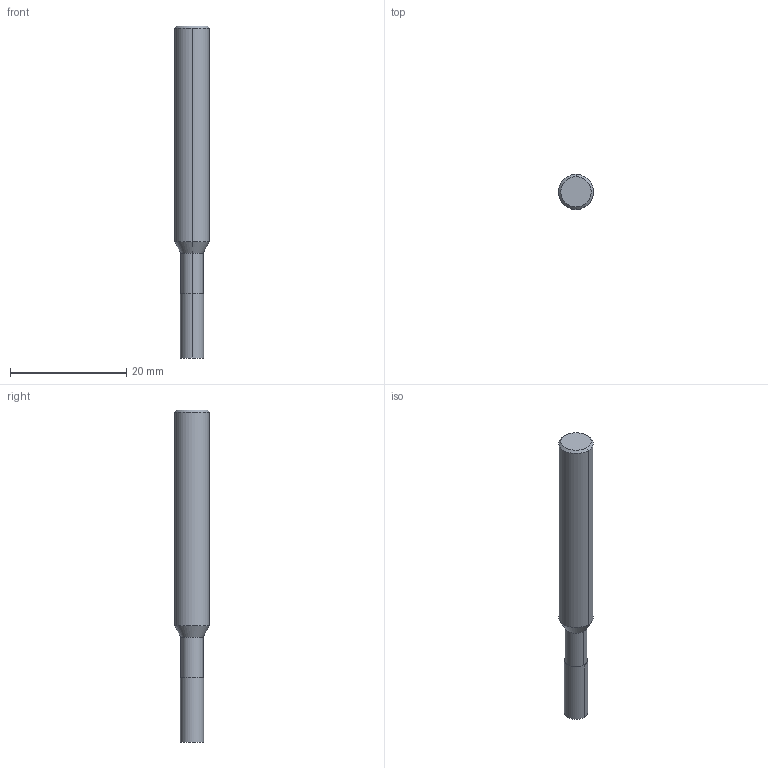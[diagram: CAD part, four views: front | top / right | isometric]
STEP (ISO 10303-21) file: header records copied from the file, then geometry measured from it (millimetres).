
FILE_DESCRIPTION((''),'2;1');
FILE_NAME('DIN4003_82_HEURO','2016-06-28T',('moesset'),(''),'PRO/ENGINEER BY PARAMETRIC TECHNOLOGY CORPORATION, 2015280','PRO/ENGINEER BY PARAMETRIC TECHNOLOGY CORPORATION, 2015280','');
FILE_SCHEMA(('AUTOMOTIVE_DESIGN { 1 0 10303 214 1 1 1 1 }'));
Length unit declared in the file: millimetre
Products named in the file (1): DIN4003_82_HEURO
Bounding box: 6 x 6 x 57 mm (x, y, z)
Volume: 1300.7 mm3; surface area: 991.8 mm2
Topology: 1 solids, 1 shells, 13 faces, 26 edges, 17 vertices
Faces by surface type: bspline 13
Entity records: 750 total; most frequent: CARTESIAN_POINT 251, DIRECTION 69, ORIENTED_EDGE 48, AXIS2_PLACEMENT_3D 26, EDGE_CURVE 24, PRESENTATION_STYLE_ASSIGNMENT 23, STYLED_ITEM 23, VECTOR 17
